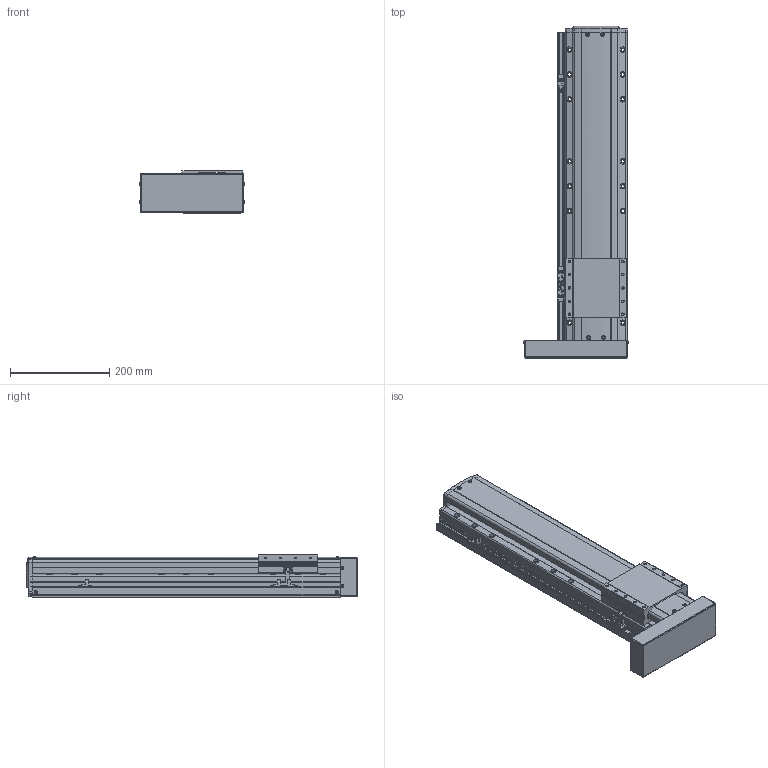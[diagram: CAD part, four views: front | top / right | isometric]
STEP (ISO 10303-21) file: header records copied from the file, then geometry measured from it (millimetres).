
FILE_DESCRIPTION(('STEP AP214'),'1');
FILE_NAME('Z:/Web/3D/PSA125/STP/PSA125-400 (3D)/PSA125ㅁㅁ-400PL+3SL.stp','2014-06-22T23:57:00',(' '),(' '),'Spatial InterOp 3D',' ',' ');
FILE_SCHEMA(('automotive_design'));
Length unit declared in the file: millimetre
Products named in the file (41): 스크루 : Round - M4.0 x 10.0; RRCV-PA120; SLIDE; BASE; FRCV-PA120-1(기준 뿔 제거); RR1500; 스크루 : Round - M4.0 x 6.0; 너트 : Square - M10.0 x 220.7419; BTCV - 60A; 스크루 : Round - M3.0 x 6.0; EE-SX674; SBK-SX674-352; M3.0 x 6.0; SRL-16x17-380L; SGD-PA95; 스크루 : Round - M3.0 x 8.0
Bounding box: 212.13 x 668.6 x 86 mm (x, y, z)
Volume: 6026743.2 mm3; surface area: 599187.1 mm2
Topology: 41 solids, 41 shells, 2439 faces, 6493 edges, 4166 vertices
Faces by surface type: plane 1407, cylinder 676, cone 236, sphere 64, bspline 31, torus 25
Entity records: 97432 total; most frequent: CARTESIAN_POINT 15823, DIRECTION 12973, ORIENTED_EDGE 12726, EDGE_CURVE 6363, AXIS2_PLACEMENT_3D 4329, LINE 4315, VECTOR 4315, VERTEX_POINT 4166
